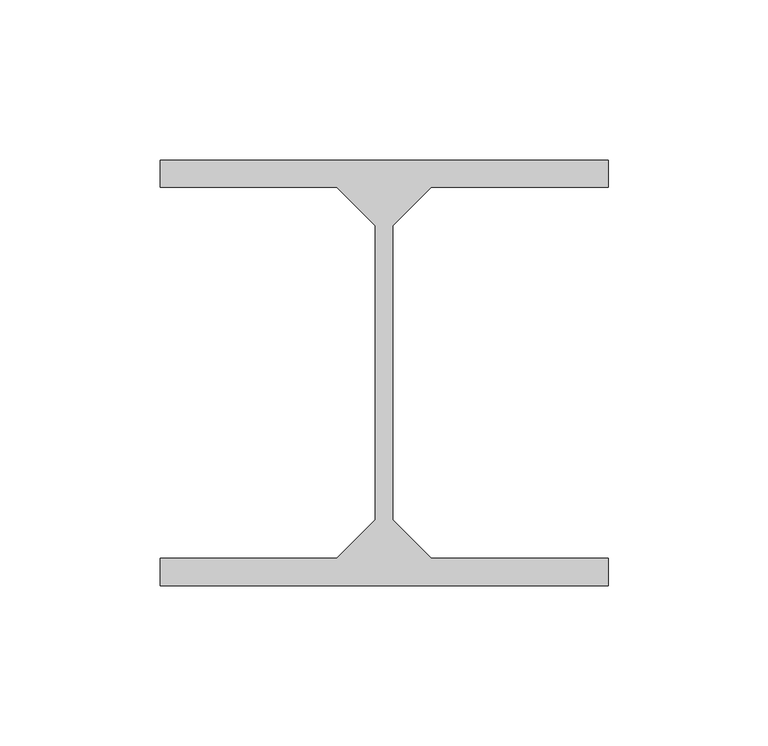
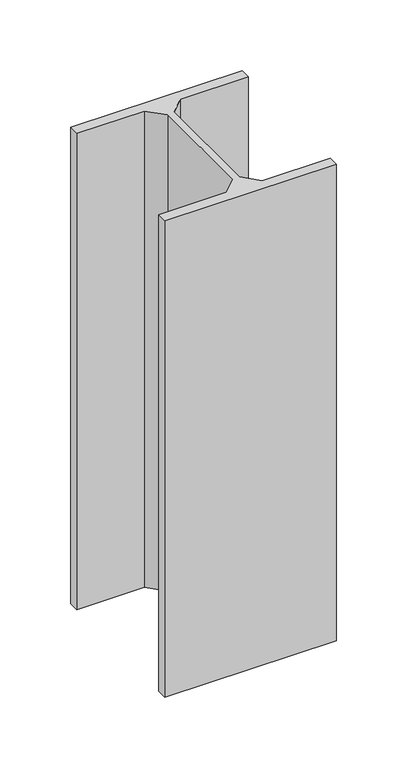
"""IFC4 building model written with IfcOpenShell, lengths in millimetres: beam geometry, Membrure Haute : Membrure Haute."""

import ifcopenshell
import ifcopenshell.guid

model = None  # the IFC model being written
_history = None  # IfcOwnerHistory: only IFC2X3 demands one
_inside = {}  # id of a spatial element -> (the spatial element, [elements in it])
_under = {}  # id of a project, library or spatial element -> (it, [spatial elements below it])
_declared = {}  # id of a project -> (the project, [libraries it declares])
_typed = {}  # id of a type object -> (the type object, [elements of that type])
_made_of = {}  # id of a material, layer set ... -> (it, [elements and type objects made of it])


def new_model(schema):
    """Start an empty IFC model of exactly this schema.

    Asked for "IFC4X3", IfcOpenShell would pick the latest addendum, in which some entities
    have other attributes; the version numbers below select the first issue.
    IFC2X3 requires an IfcOwnerHistory on every rooted entity: one is made here for all.
    """
    global model, _history
    if schema == "IFC4X3":
        model = ifcopenshell.file(schema_version=(4, 3, 0, 0))
    else:
        model = ifcopenshell.file(schema=schema)
    _inside.clear()
    _under.clear()
    _declared.clear()
    _typed.clear()
    _made_of.clear()
    _history = None
    if model.schema == "IFC2X3":
        org = make("IfcOrganization", Name="unknown")
        user = make(
            "IfcPersonAndOrganization",
            ThePerson=make("IfcPerson", FamilyName="unknown"),
            TheOrganization=org,
        )
        app = make(
            "IfcApplication",
            ApplicationDeveloper=org,
            Version="unknown",
            ApplicationFullName="unknown",
            ApplicationIdentifier="unknown",
        )
        _history = make(
            "IfcOwnerHistory",
            OwningUser=user,
            OwningApplication=app,
            ChangeAction="ADDED",
            CreationDate=0,
        )
    return model


def make(cls, **values):
    """One entity of the class cls with the attributes given. An attribute that is None is left unset."""
    return model.create_entity(
        cls, **{name: value for name, value in values.items() if value is not None}
    )


def rooted(cls, **values):
    """An entity with a GlobalId (a new one), such as an element, a storey or a relation."""
    return make(cls, GlobalId=ifcopenshell.guid.new(), OwnerHistory=_history, **values)


def si_unit(unit_type, name, prefix=None):
    """IfcSIUnit, for example si_unit("LENGTHUNIT", "METRE", prefix="MILLI")."""
    return make("IfcSIUnit", UnitType=unit_type, Prefix=prefix, Name=name)


def assignment(units):
    """IfcUnitAssignment: the units of a project."""
    return None if units is None else make("IfcUnitAssignment", Units=units)


def point(xyz):
    """IfcCartesianPoint."""
    return None if xyz is None else make("IfcCartesianPoint", Coordinates=xyz)


def direction(xyz):
    """IfcDirection."""
    return None if xyz is None else make("IfcDirection", DirectionRatios=xyz)


def frame(location, z_axis=None, x_axis=None):
    """IfcAxis2Placement3D, a coordinate frame: its origin and axes. An axis left out is left unset."""
    return make(
        "IfcAxis2Placement3D",
        Location=point(location),
        Axis=direction(z_axis),
        RefDirection=direction(x_axis),
    )


def origin():
    """The frame at (0, 0, 0) with its axes left unset."""
    return frame((0.0, 0.0, 0.0))


def place(relative_to, where):
    """IfcLocalPlacement: puts the frame where relative to a parent placement (None: the world)."""
    return make(
        "IfcLocalPlacement", PlacementRelTo=relative_to, RelativePlacement=where
    )


def context(
    kind, dimensions, precision=None, world=None, true_north=None, identifier=None
):
    """IfcGeometricRepresentationContext, for example the 3D "Model" context."""
    return make(
        "IfcGeometricRepresentationContext",
        ContextIdentifier=identifier,
        ContextType=kind,
        CoordinateSpaceDimension=dimensions,
        Precision=precision,
        WorldCoordinateSystem=world,
        TrueNorth=true_north,
    )


def project(units=None, contexts=None):
    """IfcProject with its units and contexts."""
    return rooted(
        "IfcProject",
        Name="project",
        RepresentationContexts=contexts,
        UnitsInContext=assignment(units),
    )


def spatial(cls, under=None, at=None, **own):
    """A site, building, storey or space (cls), placed at a placement, below another one or the project."""
    s = rooted(cls, ObjectPlacement=at, **own)
    if under is not None:
        _under.setdefault(under.id(), (under, []))[1].append(s)
    return s


def polyline(points):
    """IfcPolyline through the points."""
    return make("IfcPolyline", Points=[point(p) for p in points])


def outline(outer, holes=None, kind="AREA"):
    """IfcArbitraryClosedProfileDef: a profile drawn as a closed curve; with holes, ...WithVoids."""
    if holes is None:
        return make("IfcArbitraryClosedProfileDef", ProfileType=kind, OuterCurve=outer)
    return make(
        "IfcArbitraryProfileDefWithVoids",
        ProfileType=kind,
        OuterCurve=outer,
        InnerCurves=holes,
    )


def extrude(swept, where, along, depth):
    """IfcExtrudedAreaSolid: the profile swept, set in the frame where, extruded along a direction by depth."""
    return make(
        "IfcExtrudedAreaSolid",
        SweptArea=swept,
        Position=where,
        ExtrudedDirection=direction(along),
        Depth=depth,
    )


def shape(context_of_items, identifier, shape_type, items):
    """IfcShapeRepresentation: the items that make up one representation, for example the "Body"."""
    return make(
        "IfcShapeRepresentation",
        ContextOfItems=context_of_items,
        RepresentationIdentifier=identifier,
        RepresentationType=shape_type,
        Items=items,
    )


def source(mapping_origin, context_of_items, identifier, shape_type, items):
    """IfcRepresentationMap: a shape defined once, which mapped items show again and again."""
    return make(
        "IfcRepresentationMap",
        MappingOrigin=mapping_origin,
        MappedRepresentation=shape(context_of_items, identifier, shape_type, items),
    )


def transform(
    local_origin,
    x_axis=None,
    y_axis=None,
    z_axis=None,
    scale=None,
    scale2=None,
    scale3=None,
    uniform=True,
):
    """IfcCartesianTransformationOperator3D, or its non-uniform kind. x_axis, y_axis, z_axis: its Axis1, 2, 3."""
    if uniform:
        return make(
            "IfcCartesianTransformationOperator3D",
            Axis1=direction(x_axis),
            Axis2=direction(y_axis),
            LocalOrigin=point(local_origin),
            Scale=scale,
            Axis3=direction(z_axis),
        )
    return make(
        "IfcCartesianTransformationOperator3DnonUniform",
        Axis1=direction(x_axis),
        Axis2=direction(y_axis),
        LocalOrigin=point(local_origin),
        Scale=scale,
        Axis3=direction(z_axis),
        Scale2=scale2,
        Scale3=scale3,
    )


def mapped(mapping_source, mapping_target):
    """IfcMappedItem: shows the shape of a source again, moved by a transform."""
    return make(
        "IfcMappedItem", MappingSource=mapping_source, MappingTarget=mapping_target
    )


def made_of(thing, what):
    """Note that an element or type object is made of a material, layer set ...; save() writes the relation."""
    if what is not None:
        _made_of.setdefault(what.id(), (what, []))[1].append(thing)
    return thing


def element(
    cls,
    number,
    at=None,
    inside=None,
    cuts=None,
    type_object=None,
    material=None,
    context=None,
    identifier="Body",
    shape_type=None,
    held_by="IfcProductDefinitionShape",
    body=None,
    shapes=None,
    **own,
):
    """One element of the class cls, such as IfcWall. Its Tag is "e" and its number.

    at: its placement. inside: the storey or other place that contains it. cuts: it is an
    opening in that element (IfcRelVoidsElement). A single representation is given by context,
    identifier, shape_type and body (its items); several are given by shapes. held_by: the class
    of the entity that holds the representations. save() writes the other relations.
    """
    e = rooted(cls, Tag="e%d" % number, ObjectPlacement=at, **own)
    if body is not None:
        shapes = [shape(context, identifier, shape_type, body)]
    if shapes is not None:
        e.Representation = make(held_by, Representations=shapes)
    if inside is not None:
        _inside.setdefault(inside.id(), (inside, []))[1].append(e)
    if cuts is not None:
        rooted(
            "IfcRelVoidsElement", RelatingBuildingElement=cuts, RelatedOpeningElement=e
        )
    if type_object is not None:
        _typed.setdefault(type_object.id(), (type_object, []))[1].append(e)
    return made_of(e, material)


def aggregate(whole, parts):
    """IfcRelAggregates: a whole, such as a stair, and the parts it consists of."""
    return rooted("IfcRelAggregates", RelatingObject=whole, RelatedObjects=parts)


def save(model, path):
    """Write the relations noted so far, then the file.

    IfcRelAggregates (storeys below a building ...), IfcRelContainedInSpatialStructure (elements
    in a storey), IfcRelDefinesByType, IfcRelAssociatesMaterial and IfcRelDeclares: one each for
    every whole, place, type object, material and project.
    """
    for whole, parts in _under.values():
        aggregate(whole, parts)
    for where, things in _inside.values():
        rooted(
            "IfcRelContainedInSpatialStructure",
            RelatedElements=things,
            RelatingStructure=where,
        )
    for kind, things in _typed.values():
        rooted("IfcRelDefinesByType", RelatedObjects=things, RelatingType=kind)
    for what, things in _made_of.values():
        rooted("IfcRelAssociatesMaterial", RelatedObjects=things, RelatingMaterial=what)
    for by, libraries in _declared.values():
        rooted("IfcRelDeclares", RelatingContext=by, RelatedDefinitions=libraries)
    model.write(path)


def beam_03e1d0e3(model_context):
    return source(origin(), model_context, "Body", "SweptSolid", [
        extrude(outline(polyline([(-180.0000001, -28933.5), (-40.0000001, -28933.5), (-40.0000001, -28942.0), (-95.2500001, -28942.0), (-107.2500001, -28954.0), (-107.2500001, -29046.0), (-95.2500001, -29058.0), (-40.0000001, -29058.0), (-40.0000001, -29066.5), (-180.0000001, -29066.5), (-180.0000001, -29058.0), (-124.7500001, -29058.0), (-112.7500001, -29046.0), (-112.7500001, -28954.0), (-124.7500001, -28942.0), (-180.0000001, -28942.0), (-180.0000001, -28933.5)])), frame((0.0, 0.0, 8005.5841583), z_axis=(0.0, 0.0, 1.0), x_axis=(1.0, 0.0, 0.0)), (0.0, 0.0, 1.0), 411.4158417),
    ])


if __name__ == "__main__":
    model = new_model("IFC4")
    model_context = context("Model", 3, world=origin())
    ifc_project = project(units=[si_unit("LENGTHUNIT", "METRE", prefix="MILLI")], contexts=[model_context])
    site = spatial("IfcSite", under=ifc_project)
    building = spatial("IfcBuilding", under=site)
    placement = place(None, origin())
    beam_shape = beam_03e1d0e3(model_context)
    element("IfcBeam", 1, ObjectType="Membrure Haute : Membrure Haute", at=placement, inside=building, context=model_context, shape_type="MappedRepresentation", body=[
        mapped(beam_shape, transform((0.0, 0.0, 0.0), x_axis=(1.0, 0.0, 0.0), y_axis=(0.0, 1.0, 0.0), z_axis=(0.0, 0.0, 1.0))),
    ])
    save(model, "model.ifc")
